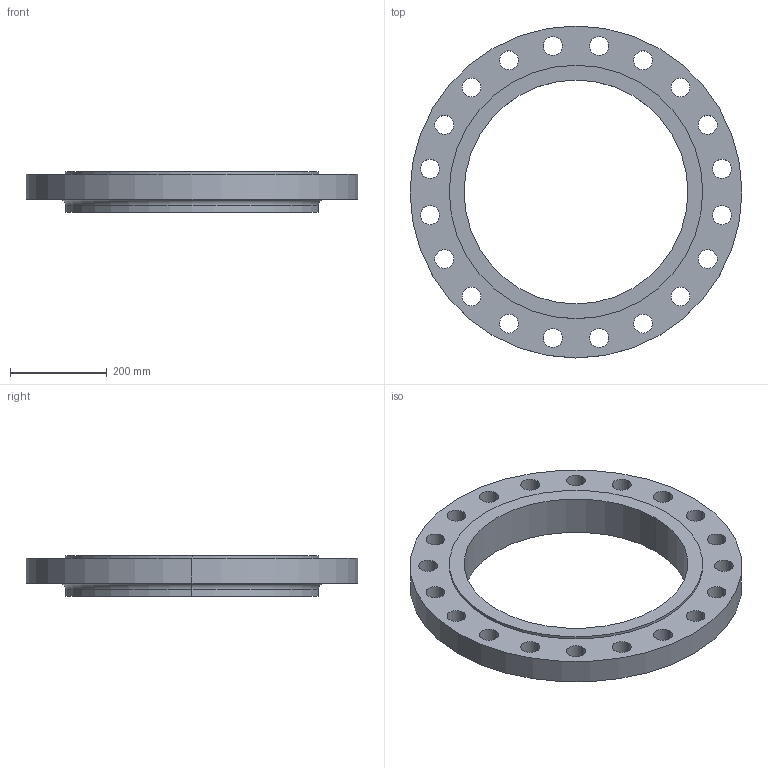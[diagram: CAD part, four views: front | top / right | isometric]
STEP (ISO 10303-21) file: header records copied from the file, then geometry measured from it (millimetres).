
FILE_DESCRIPTION (( 'STEP AP214' ), '1' );
FILE_NAME ('PN40 DN450 Type 12 - Type E Face.STEP', '2018-12-29T02:35:37', ( '' ), ( '' ), 'SwSTEP 2.0', 'SolidWorks 2019', '' );
FILE_SCHEMA (( 'AUTOMOTIVE_DESIGN' ));
Length unit declared in the file: millimetre
Products named in the file (1): PN40 DN450 Type 12 - Type E Face
Bounding box: 685 x 685 x 84 mm (x, y, z)
Volume: 10678137.1 mm3; surface area: 757872.7 mm2
Topology: 1 solids, 1 shells, 54 faces, 148 edges, 98 vertices
Faces by surface type: cylinder 48, plane 4, torus 2
Entity records: 1894 total; most frequent: DIRECTION 358, CARTESIAN_POINT 301, ORIENTED_EDGE 296, AXIS2_PLACEMENT_3D 155, EDGE_CURVE 148, CIRCLE 100, VERTEX_POINT 98, EDGE_LOOP 98
